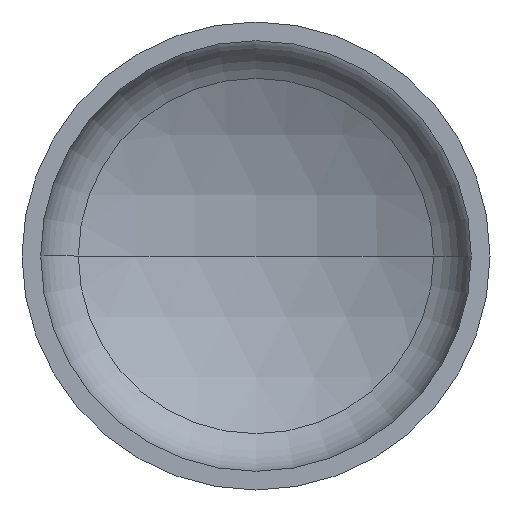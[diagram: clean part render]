
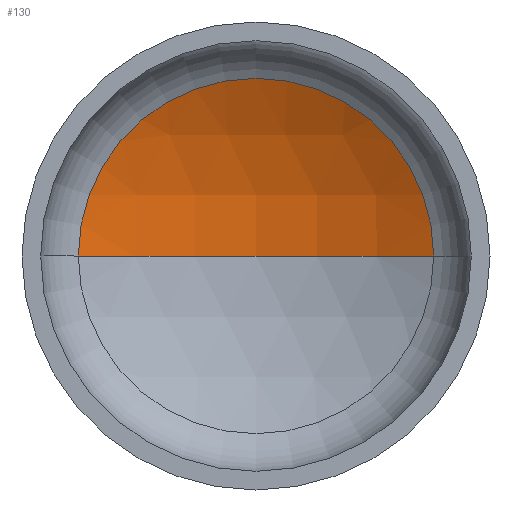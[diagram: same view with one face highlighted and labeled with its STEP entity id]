
A CAD part, front view. The second image highlights one B-rep face of the part: STEP entity #130.
In plain terms, the highlighted spherical face has radius 1360 mm.
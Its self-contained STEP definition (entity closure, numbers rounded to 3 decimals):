
#5 = VERTEX_POINT ( 'NONE', #257 ) ;
#14 = ORIENTED_EDGE ( 'NONE', *, *, #391, .F. ) ;
#20 = AXIS2_PLACEMENT_3D ( 'NONE', #338, #341, #121 ) ;
#23 = AXIS2_PLACEMENT_3D ( 'NONE', #115, #112, #113 ) ;
#25 = EDGE_LOOP ( 'NONE', ( #14, #92, #406 ) ) ;
#47 = AXIS2_PLACEMENT_3D ( 'NONE', #166, #187, #170 ) ;
#59 = CARTESIAN_POINT ( 'NONE',  ( -645.382, 348.86, 0. ) ) ;
#68 = CIRCLE ( 'NONE', #200, 1360. ) ;
#85 = CARTESIAN_POINT ( 'NONE',  ( 0., -848.254, 0. ) ) ;
#92 = ORIENTED_EDGE ( 'NONE', *, *, #329, .T. ) ;
#112 = DIRECTION ( 'NONE',  ( 0., -1., 0. ) ) ;
#113 = DIRECTION ( 'NONE',  ( 1., 0., 0. ) ) ;
#115 = CARTESIAN_POINT ( 'NONE',  ( 0., 348.86, 0. ) ) ;
#121 = DIRECTION ( 'NONE',  ( -1., 0., 0. ) ) ;
#130 = ADVANCED_FACE ( 'NONE', ( #192 ), #259, .F. ) ;
#141 = CARTESIAN_POINT ( 'NONE',  ( 0., 511.746, 0. ) ) ;
#166 = CARTESIAN_POINT ( 'NONE',  ( 0., -848.254, 0. ) ) ;
#170 = DIRECTION ( 'NONE',  ( -1., 0., 0. ) ) ;
#187 = DIRECTION ( 'NONE',  ( 0., 0., -1. ) ) ;
#192 = FACE_OUTER_BOUND ( 'NONE', #25, .T. ) ;
#197 = DIRECTION ( 'NONE',  ( 0., 0., 1. ) ) ;
#200 = AXIS2_PLACEMENT_3D ( 'NONE', #85, #197, #395 ) ;
#257 = CARTESIAN_POINT ( 'NONE',  ( 645.382, 348.86, 0. ) ) ;
#259 = SPHERICAL_SURFACE ( 'NONE', #47, 1360. ) ;
#303 = CIRCLE ( 'NONE', #23, 645.382 ) ;
#311 = VERTEX_POINT ( 'NONE', #59 ) ;
#322 = EDGE_CURVE ( 'NONE', #5, #311, #303, .T. ) ;
#329 = EDGE_CURVE ( 'NONE', #404, #5, #387, .T. ) ;
#338 = CARTESIAN_POINT ( 'NONE',  ( 0., -848.254, 0. ) ) ;
#341 = DIRECTION ( 'NONE',  ( 0., 0., -1. ) ) ;
#387 = CIRCLE ( 'NONE', #20, 1360. ) ;
#391 = EDGE_CURVE ( 'NONE', #404, #311, #68, .T. ) ;
#395 = DIRECTION ( 'NONE',  ( 1., 0., 0. ) ) ;
#404 = VERTEX_POINT ( 'NONE', #141 ) ;
#406 = ORIENTED_EDGE ( 'NONE', *, *, #322, .T. ) ;
